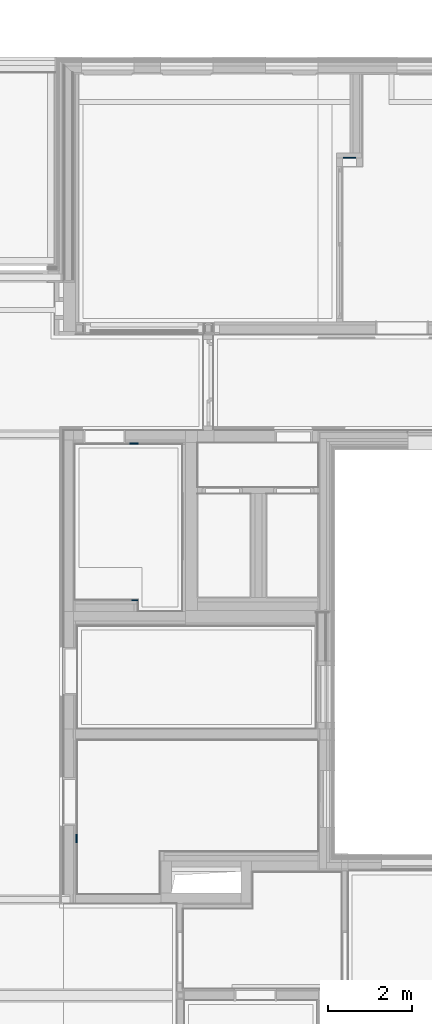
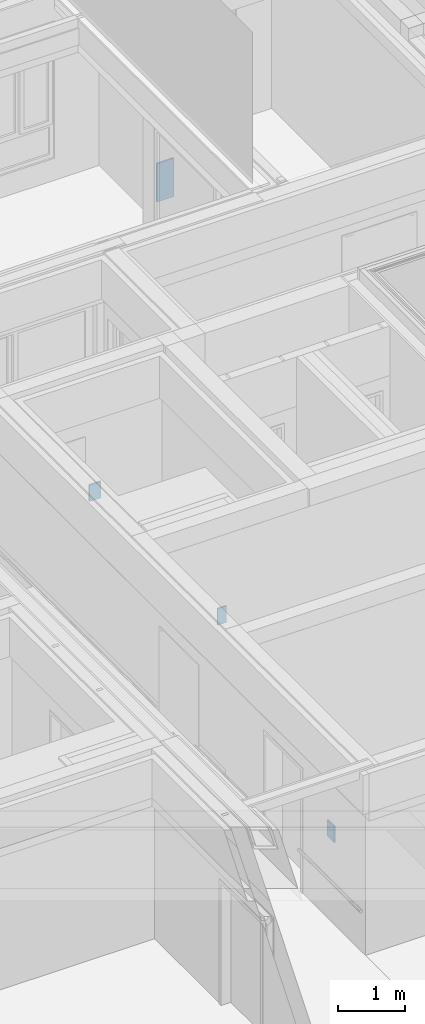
# One storey, part 150 of 222: 4 walls.
"""IFC4 building model written with IfcOpenShell, lengths in metres."""

from ifc_helpers import new_model, entity, si_unit, converted_unit, derived_unit, frame, origin, place, context, subcontext, project, spatial, faceted_brep, element, save


model = new_model("IFC4")

# Units and contexts
model_context = context("Model", 3, precision=1e-05, world=origin())
body_context = subcontext(model_context, "Body", "Model", "MODEL_VIEW")
ifc_project = project(units=[si_unit("LENGTHUNIT", "METRE"), si_unit("AREAUNIT", "SQUARE_METRE"), si_unit("VOLUMEUNIT", "CUBIC_METRE"), si_unit("MASSUNIT", "GRAM", prefix="KILO"), converted_unit("PLANEANGLEUNIT", "DEGREE", entity("IfcPlaneAngleMeasure", 0.0174532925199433), si_unit("PLANEANGLEUNIT", "RADIAN"), dimensions=[0, 0, 0, 0, 0, 0, 0]), derived_unit("THERMALTRANSMITTANCEUNIT", [(si_unit("POWERUNIT", "WATT"), 1), (si_unit("THERMODYNAMICTEMPERATUREUNIT", "KELVIN"), -1), (si_unit("LENGTHUNIT", "METRE"), -2)]), derived_unit("VOLUMETRICFLOWRATEUNIT", [(si_unit("LENGTHUNIT", "METRE"), 3), (converted_unit("TIMEUNIT", "hour", entity("IfcTimeMeasure", 3600.0), si_unit("TIMEUNIT", "SECOND"), dimensions=[0, 0, 1, 0, 0, 0, 0]), -1), (si_unit("LENGTHUNIT", "METRE"), -1)])], contexts=[model_context])

# Site, building, storey
site_placement = place(None, origin())
site = spatial("IfcSite", under=ifc_project, at=site_placement, Name="Psychiatrie Neubau Wunstorf", CompositionType="ELEMENT")
building_placement = place(site_placement, origin())
building = spatial("IfcBuilding", under=site, at=building_placement, Name="Neubau H2 Stationsgebäude", CompositionType="ELEMENT")
storey_placement = place(building_placement, frame((0.0, 0.0, 3.6)))
storey = spatial("IfcBuildingStorey", under=building, at=storey_placement, Name="H2 Ebene +1", CompositionType="ELEMENT", Elevation=3.6)

# Walls
wall_1_placement = place(storey_placement, frame((38.179, 10.7759962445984, 1.21)))
element("IfcWall", 1, at=wall_1_placement, inside=storey, Name="WV 1.1", context=body_context, shape_type="Brep", body=[
    faceted_brep([(0.0, 0.0, 0.0), (0.025, 0.0, 0.0), (0.025, 0.2, 0.0), (0.0, 0.2, 0.0), (0.025, 0.0, 0.3), (0.0, 0.0, 0.3), (0.0, 0.2, 0.3), (0.025, 0.2, 0.3)], [[[0, 1, 2, 3]], [[4, 5, 6, 7]], [[1, 0, 5, 4]], [[2, 1, 4, 7]], [[3, 2, 7, 6]], [[0, 3, 6, 5]]], orient=[[False], [False], [False], [False], [False], [False]]),
])
wall_2_placement = place(storey_placement, frame((39.4545, 20.2639980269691, 1.21)))
element("IfcWall", 2, at=wall_2_placement, inside=storey, Name="WV 1.1", context=body_context, shape_type="Brep", body=[
    faceted_brep([(0.2, 0.0, 0.0), (0.2, 0.025, 0.0), (0.0, 0.025, 0.0), (0.0, 0.0, 0.0), (0.2, 0.025, 0.3), (0.2, 0.0, 0.3), (0.0, 0.0, 0.3), (0.0, 0.025, 0.3)], [[[0, 1, 2, 3]], [[4, 5, 6, 7]], [[1, 0, 5, 4]], [[2, 1, 4, 7]], [[3, 2, 7, 6]], [[0, 3, 6, 5]]], orient=[[False], [False], [False], [False], [False], [False]]),
])
wall_3_placement = place(storey_placement, frame((44.5375, 27.0639996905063, 0.75)))
element("IfcWall", 3, at=wall_3_placement, inside=storey, Name="WV 1.1", context=body_context, shape_type="Brep", body=[
    faceted_brep([(0.3, 0.0, 0.0), (0.3, 0.025, 0.0), (0.0, 0.025, 0.0), (0.0, 0.0, 0.0), (0.3, 0.025, 0.7), (0.3, 0.0, 0.7), (0.0, 0.0, 0.7), (0.0, 0.025, 0.7)], [[[0, 1, 2, 3]], [[4, 5, 6, 7]], [[1, 0, 5, 4]], [[2, 1, 4, 7]], [[3, 2, 7, 6]], [[0, 3, 6, 5]]], orient=[[False], [False], [False], [False], [False], [False]]),
])
wall_4_placement = place(storey_placement, frame((39.504, 16.5320060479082, 1.21)))
element("IfcWall", 4, at=wall_4_placement, inside=storey, Name="WV 1.1", context=body_context, shape_type="Brep", body=[
    faceted_brep([(0.15, 0.0, 0.0), (0.15, 0.025, 0.0), (0.0, 0.025, 0.0), (0.0, 0.0, 0.0), (0.15, 0.025, 0.3), (0.15, 0.0, 0.3), (0.0, 0.0, 0.3), (0.0, 0.025, 0.3)], [[[0, 1, 2, 3]], [[4, 5, 6, 7]], [[1, 0, 5, 4]], [[2, 1, 4, 7]], [[3, 2, 7, 6]], [[0, 3, 6, 5]]], orient=[[False], [False], [False], [False], [False], [False]]),
])

save(model, "model.ifc")
